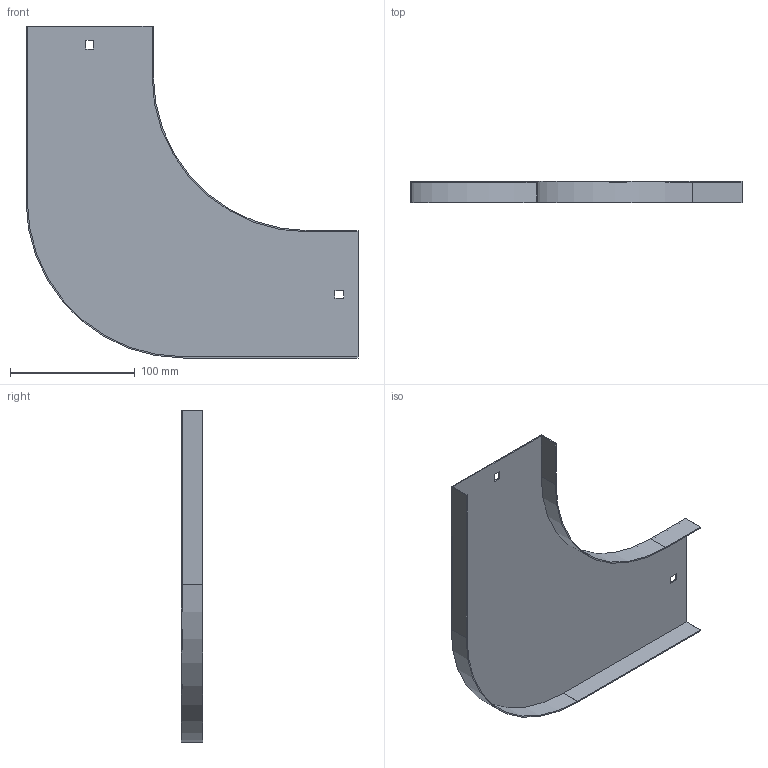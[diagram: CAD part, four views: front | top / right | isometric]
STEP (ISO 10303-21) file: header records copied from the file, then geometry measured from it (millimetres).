
FILE_DESCRIPTION (( 'STEP AP214' ), '1' );
FILE_NAME ('OP9_100.step', '2025-07-16T09:14:52', ( '' ), ( '' ), 'SwSTEP 2.0', 'SolidWorks 2023', '' );
FILE_SCHEMA (( 'AUTOMOTIVE_DESIGN' ));
Length unit declared in the file: millimetre
Products named in the file (1): OP9_100
Bounding box: 266 x 17 x 266 mm (x, y, z)
Volume: 55711.9 mm3; surface area: 112496.5 mm2
Topology: 1 solids, 1 shells, 26 faces, 72 edges, 48 vertices
Faces by surface type: plane 22, cylinder 4
Entity records: 855 total; most frequent: CARTESIAN_POINT 147, ORIENTED_EDGE 144, DIRECTION 134, EDGE_CURVE 72, VECTOR 64, LINE 64, VERTEX_POINT 48, AXIS2_PLACEMENT_3D 35
